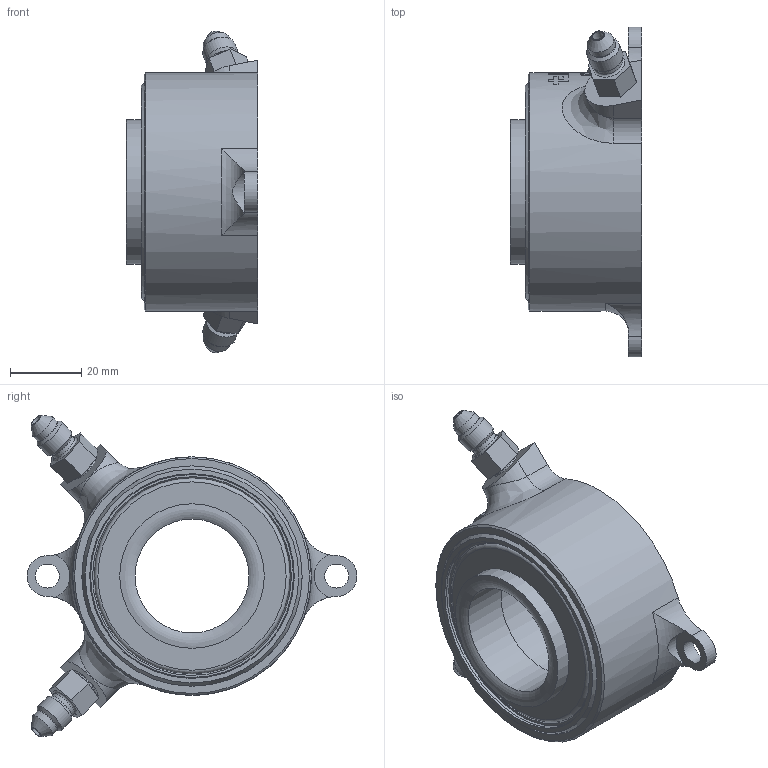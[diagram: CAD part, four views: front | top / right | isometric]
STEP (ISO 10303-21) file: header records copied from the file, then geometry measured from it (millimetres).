
FILE_DESCRIPTION(/* description */ ('Unknown'),/* implementation_level */ '2;1');
FILE_NAME(/* name */ '61-8123',/* time_stamp */ '2017-09-11T09:11:34-07:00',/* author */ ('Unknown'),/* organization */ ('Unknown'),/* preprocessor_version */ 'ST-DEVELOPER v16.7',/* originating_system */ 'DEX',/* authorisation */ $);
FILE_SCHEMA (('AUTOMOTIVE_DESIGN {1 0 10303 214 3 1 1}'));
Length unit declared in the file: millimetre
Products named in the file (1): 61-8123
Bounding box: 37.06 x 92.71 x 90.37 mm (x, y, z)
Volume: 90006.4 mm3; surface area: 22643.7 mm2
Topology: 1 solids, 3 shells, 137 faces, 377 edges, 277 vertices
Faces by surface type: cylinder 59, plane 41, torus 20, cone 15, bspline 2
Full cylindrical faces by diameter (mm): 3.175 x2, 6.756 x2, 7.734 x2, 7.925 x4, 9.525 x2, 9.589 x1, 32.004 x1, 35.001 x2, 38.1 x1, 40.64 x1, 54.991 x1, 54.997 x1, 57.061 x1, 61.925 x1, 64.922 x1, 67.056 x1
Entity records: 5459 total; most frequent: CARTESIAN_POINT 1385, ORIENTED_EDGE 594, DIRECTION 572, EDGE_CURVE 297, VERTEX_POINT 254, AXIS2_PLACEMENT_3D 251, EDGE_LOOP 235, FACE_BOUND 235
